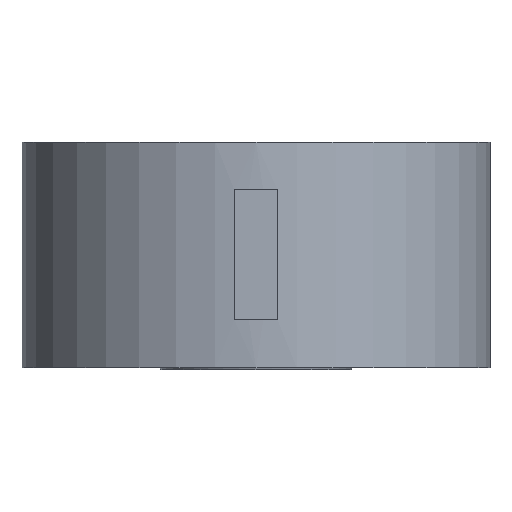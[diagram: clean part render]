
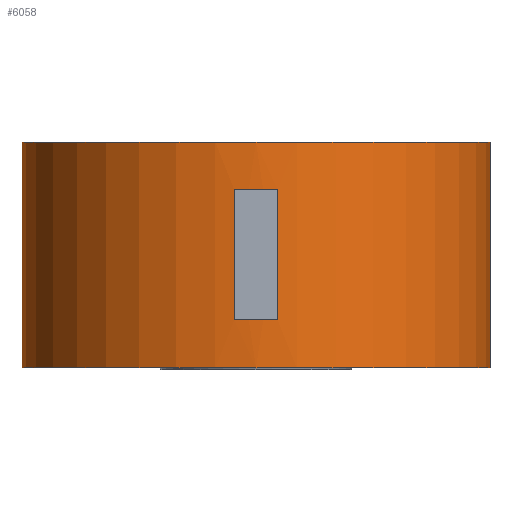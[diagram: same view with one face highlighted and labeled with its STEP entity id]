
A CAD part, front view. The second image highlights one B-rep face of the part: STEP entity #6058.
In plain terms, the highlighted cylindrical face has radius 27 mm (diameter 54 mm), a partial arc.
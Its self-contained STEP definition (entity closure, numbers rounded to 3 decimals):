
#348 = CARTESIAN_POINT ( 'NONE',  ( 27., 0., -13. ) ) ;
#357 = VERTEX_POINT ( 'NONE', #2726 ) ;
#442 = VECTOR ( 'NONE', #6044, 1000. ) ;
#514 = LINE ( 'NONE', #3196, #442 ) ;
#607 = FACE_OUTER_BOUND ( 'NONE', #3614, .T. ) ;
#688 = CIRCLE ( 'NONE', #7803, 27. ) ;
#756 = CIRCLE ( 'NONE', #6119, 27. ) ;
#807 = CARTESIAN_POINT ( 'NONE',  ( -2.5, -26.884, 13. ) ) ;
#808 = EDGE_CURVE ( 'NONE', #8343, #1315, #6559, .T. ) ;
#839 = CARTESIAN_POINT ( 'NONE',  ( 0., 0., -7.5 ) ) ;
#872 = CARTESIAN_POINT ( 'NONE',  ( -27., 0., 13. ) ) ;
#878 = VERTEX_POINT ( 'NONE', #348 ) ;
#949 = LINE ( 'NONE', #2349, #6501 ) ;
#1142 = CARTESIAN_POINT ( 'NONE',  ( -27., 0., -13. ) ) ;
#1264 = ORIENTED_EDGE ( 'NONE', *, *, #4655, .F. ) ;
#1315 = VERTEX_POINT ( 'NONE', #8619 ) ;
#1596 = EDGE_CURVE ( 'NONE', #6085, #357, #7128, .T. ) ;
#1969 = DIRECTION ( 'NONE',  ( -1., 0., 0. ) ) ;
#2102 = EDGE_CURVE ( 'NONE', #6017, #1315, #3192, .T. ) ;
#2349 = CARTESIAN_POINT ( 'NONE',  ( 27., 0., 13. ) ) ;
#2364 = ORIENTED_EDGE ( 'NONE', *, *, #8015, .T. ) ;
#2421 = CARTESIAN_POINT ( 'NONE',  ( 0., 0., 13. ) ) ;
#2450 = DIRECTION ( 'NONE',  ( 0., 0., -1. ) ) ;
#2726 = CARTESIAN_POINT ( 'NONE',  ( 27., 0., 13. ) ) ;
#2752 = EDGE_LOOP ( 'NONE', ( #6570, #5760, #2364, #5399 ) ) ;
#2853 = EDGE_CURVE ( 'NONE', #6085, #6431, #3106, .T. ) ;
#2904 = DIRECTION ( 'NONE',  ( -1., 0., 0. ) ) ;
#3106 = LINE ( 'NONE', #3869, #3293 ) ;
#3192 = CIRCLE ( 'NONE', #8698, 27. ) ;
#3196 = CARTESIAN_POINT ( 'NONE',  ( 2.5, -26.884, 13. ) ) ;
#3293 = VECTOR ( 'NONE', #2450, 1000. ) ;
#3369 = FACE_BOUND ( 'NONE', #2752, .T. ) ;
#3542 = DIRECTION ( 'NONE',  ( 0., 0., -1. ) ) ;
#3590 = CARTESIAN_POINT ( 'NONE',  ( -2.5, -26.884, -7.5 ) ) ;
#3604 = DIRECTION ( 'NONE',  ( 0., 0., -1. ) ) ;
#3614 = EDGE_LOOP ( 'NONE', ( #1264, #4907, #7464, #8347 ) ) ;
#3755 = EDGE_CURVE ( 'NONE', #6431, #878, #688, .T. ) ;
#3869 = CARTESIAN_POINT ( 'NONE',  ( -27., 0., 13. ) ) ;
#4152 = CARTESIAN_POINT ( 'NONE',  ( 0., 0., 13. ) ) ;
#4412 = DIRECTION ( 'NONE',  ( 1., 0., 0. ) ) ;
#4655 = EDGE_CURVE ( 'NONE', #357, #878, #949, .T. ) ;
#4907 = ORIENTED_EDGE ( 'NONE', *, *, #1596, .F. ) ;
#4923 = CARTESIAN_POINT ( 'NONE',  ( 0., 0., -13. ) ) ;
#5059 = CARTESIAN_POINT ( 'NONE',  ( 2.5, -26.884, -7.5 ) ) ;
#5199 = DIRECTION ( 'NONE',  ( 0., 0., -1. ) ) ;
#5383 = AXIS2_PLACEMENT_3D ( 'NONE', #4152, #8965, #4412 ) ;
#5399 = ORIENTED_EDGE ( 'NONE', *, *, #808, .T. ) ;
#5451 = CARTESIAN_POINT ( 'NONE',  ( 2.5, -26.884, 7.5 ) ) ;
#5453 = EDGE_CURVE ( 'NONE', #7900, #6017, #514, .T. ) ;
#5496 = VECTOR ( 'NONE', #6294, 1000. ) ;
#5714 = CARTESIAN_POINT ( 'NONE',  ( 0., 0., 7.5 ) ) ;
#5760 = ORIENTED_EDGE ( 'NONE', *, *, #5453, .F. ) ;
#6017 = VERTEX_POINT ( 'NONE', #5451 ) ;
#6044 = DIRECTION ( 'NONE',  ( 0., 0., 1. ) ) ;
#6058 = ADVANCED_FACE ( 'NONE', ( #607, #3369 ), #7467, .T. ) ;
#6085 = VERTEX_POINT ( 'NONE', #872 ) ;
#6119 = AXIS2_PLACEMENT_3D ( 'NONE', #839, #3604, #6374 ) ;
#6294 = DIRECTION ( 'NONE',  ( 0., 0., 1. ) ) ;
#6321 = DIRECTION ( 'NONE',  ( 0., 0., 1. ) ) ;
#6374 = DIRECTION ( 'NONE',  ( -1., 0., 0. ) ) ;
#6431 = VERTEX_POINT ( 'NONE', #1142 ) ;
#6454 = DIRECTION ( 'NONE',  ( 1., 0., 0. ) ) ;
#6501 = VECTOR ( 'NONE', #7904, 1000. ) ;
#6559 = LINE ( 'NONE', #807, #5496 ) ;
#6570 = ORIENTED_EDGE ( 'NONE', *, *, #2102, .F. ) ;
#7128 = CIRCLE ( 'NONE', #5383, 27. ) ;
#7464 = ORIENTED_EDGE ( 'NONE', *, *, #2853, .T. ) ;
#7467 = CYLINDRICAL_SURFACE ( 'NONE', #7851, 27. ) ;
#7803 = AXIS2_PLACEMENT_3D ( 'NONE', #4923, #6321, #6454 ) ;
#7851 = AXIS2_PLACEMENT_3D ( 'NONE', #2421, #5199, #1969 ) ;
#7900 = VERTEX_POINT ( 'NONE', #5059 ) ;
#7904 = DIRECTION ( 'NONE',  ( 0., 0., -1. ) ) ;
#8015 = EDGE_CURVE ( 'NONE', #7900, #8343, #756, .T. ) ;
#8343 = VERTEX_POINT ( 'NONE', #3590 ) ;
#8347 = ORIENTED_EDGE ( 'NONE', *, *, #3755, .T. ) ;
#8619 = CARTESIAN_POINT ( 'NONE',  ( -2.5, -26.884, 7.5 ) ) ;
#8698 = AXIS2_PLACEMENT_3D ( 'NONE', #5714, #3542, #2904 ) ;
#8965 = DIRECTION ( 'NONE',  ( 0., 0., 1. ) ) ;
